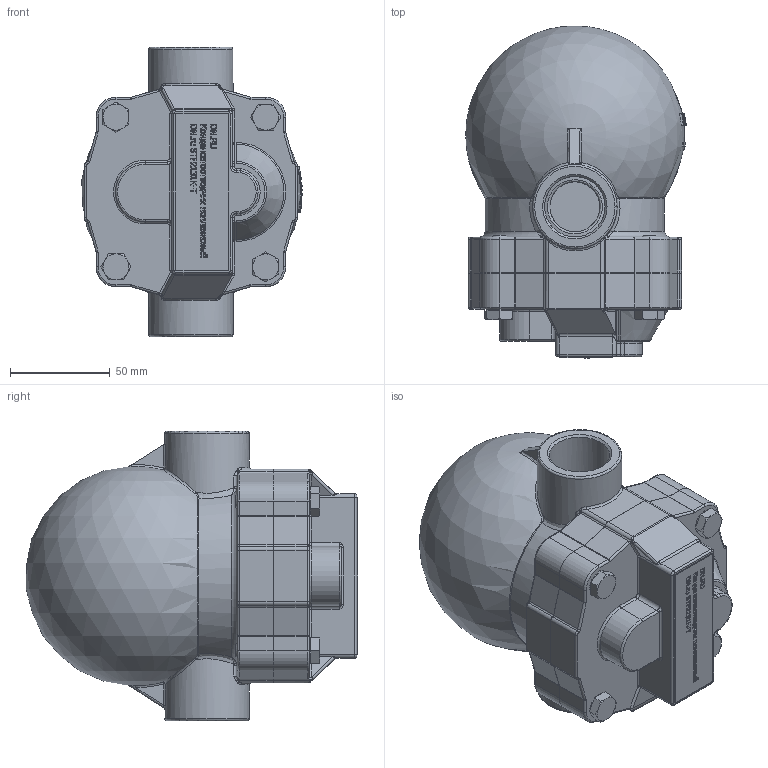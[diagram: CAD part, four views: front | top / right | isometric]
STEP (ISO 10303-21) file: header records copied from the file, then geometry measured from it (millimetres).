
FILE_DESCRIPTION(('STEP AP214'), '1');
FILE_NAME('STF2131K-T Êîíäåíñàòîîòâîä÷èê ïîïëàâêîâûé DN.ru Äó25 Ðó16', '', ('UNSPECIFIED'), ('UNSPECIFIED'), 'C3D Converter', 'C3D Toolkit', '');
FILE_SCHEMA(('AUTOMOTIVE_DESIGN { 1 0 10303 214 3 1 1}'));
Length unit declared in the file: millimetre
Products named in the file (1): STF2131K-T
Bounding box: 110.4 x 166.24 x 145 mm (x, y, z)
Volume: 1206821.7 mm3; surface area: 105261.2 mm2
Topology: 5 solids, 5 shells, 1336 faces, 3414 edges, 2181 vertices
Faces by surface type: plane 645, bspline 395, cylinder 181, torus 65, cone 35, sphere 15
Full cylindrical faces by diameter (mm): 8 x8, 9 x8, 13 x4, 25 x2, 30.291 x2, 42.291 x2, 50.24 x1
Entity records: 93424 total; most frequent: CARTESIAN_POINT 53790, ORIENTED_EDGE 6730, DIRECTION 4914, EDGE_CURVE 3365, VERTEX_POINT 2179, LINE 1890, VECTOR 1890, AXIS2_PLACEMENT_3D 1512
